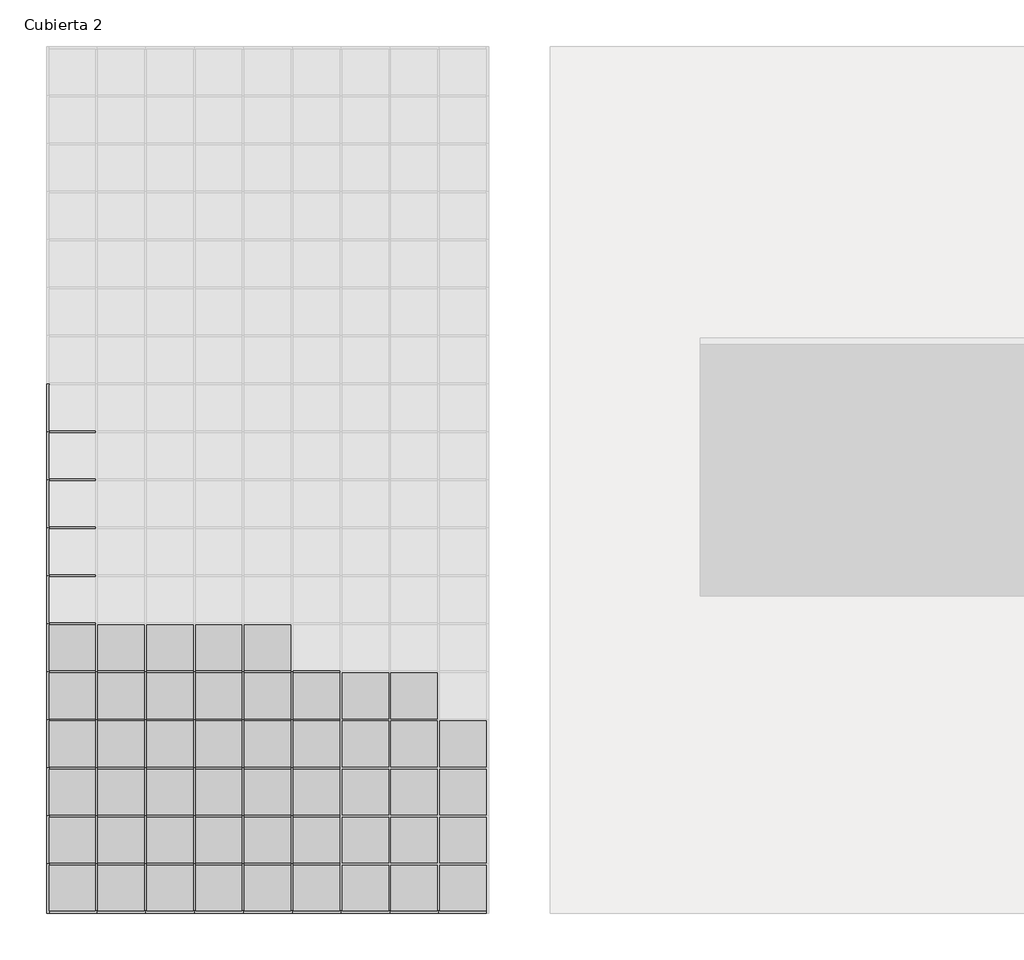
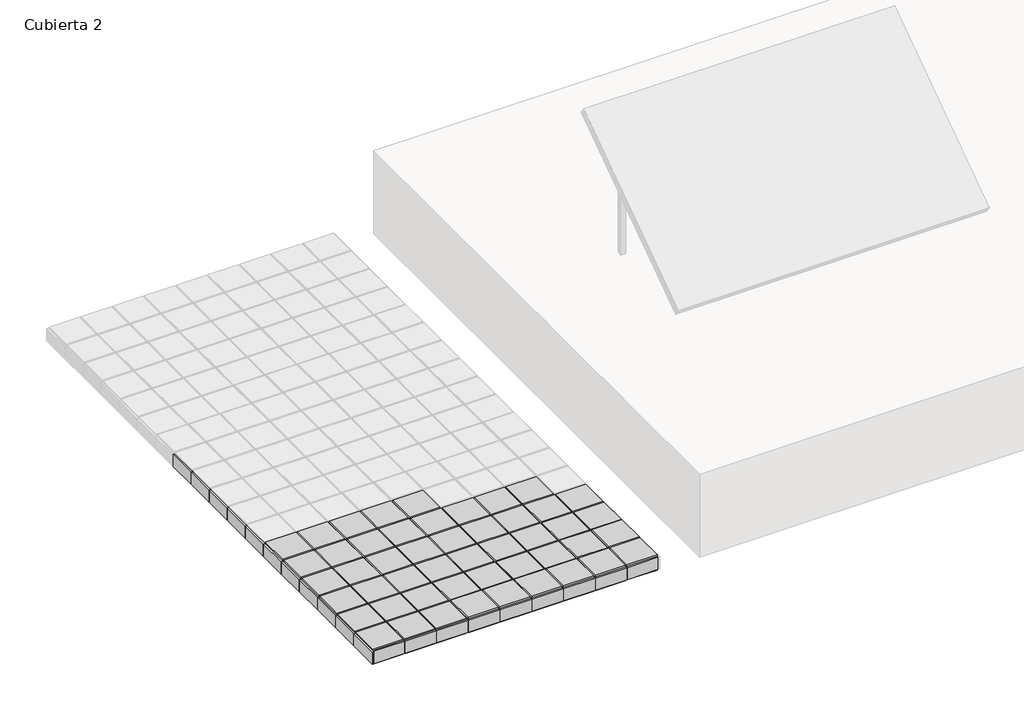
# One storey, part 1 of 4: 80 members, 49 plates.
"""IFC4 building model written with IfcOpenShell, lengths in millimetres."""

from ifc_helpers import new_model, si_unit, origin, place, context, project, spatial, transform, mapped, element, save
from components import montante_rectangular_ea949198, montante_rectangular_327b2392, montante_rectangular_18b8adfa, montante_rectangular_e7061a9b, montante_rectangular_c2f012c7, montante_rectangular_ca4572ea, montante_rectangular_b9ac4352, panel_de_sistema_3571c154

model = new_model("IFC4")

# Units and contexts
model_context = context("Model", 3, world=origin())
ifc_project = project(units=[si_unit("LENGTHUNIT", "METRE", prefix="MILLI")], contexts=[model_context])

# Site, building, storey
site = spatial("IfcSite", under=ifc_project)
building = spatial("IfcBuilding", under=site)
storey = spatial("IfcBuildingStorey", under=building, Name="Cubierta 2", Elevation=9000.0)

# Members
placement = place(None, origin())
montante_rectangular_shape = montante_rectangular_ea949198(model_context)
element("IfcMember", 1, ObjectType="Montante rectangular : Junta de paves", at=placement, inside=storey, context=model_context, shape_type="MappedRepresentation", body=[
    mapped(montante_rectangular_shape, transform((-6021.0601801, -7842.1113481, 8750.0), x_axis=(0.0, 1.0, 0.0), y_axis=(0.0, 0.0, -1.0), z_axis=(-1.0, 0.0, 0.0))),
])
element("IfcMember", 2, ObjectType="Montante rectangular : Junta de paves", at=placement, inside=storey, context=model_context, shape_type="MappedRepresentation", body=[
    mapped(montante_rectangular_shape, transform((-5822.1712912, -7842.1113481, 8750.0), x_axis=(0.0, 1.0, 0.0), y_axis=(0.0, 0.0, -1.0), z_axis=(-1.0, 0.0, 0.0))),
])
element("IfcMember", 3, ObjectType="Montante rectangular : Junta de paves", at=placement, inside=storey, context=model_context, shape_type="MappedRepresentation", body=[
    mapped(montante_rectangular_shape, transform((-5623.2824023, -7842.1113481, 8750.0), x_axis=(0.0, 1.0, 0.0), y_axis=(0.0, 0.0, -1.0), z_axis=(-1.0, 0.0, 0.0))),
])
element("IfcMember", 4, ObjectType="Montante rectangular : Junta de paves", at=placement, inside=storey, context=model_context, shape_type="MappedRepresentation", body=[
    mapped(montante_rectangular_shape, transform((-5424.3935134, -7842.1113481, 8750.0), x_axis=(0.0, 1.0, 0.0), y_axis=(0.0, 0.0, -1.0), z_axis=(-1.0, 0.0, 0.0))),
])
element("IfcMember", 5, ObjectType="Montante rectangular : Junta de paves", at=placement, inside=storey, context=model_context, shape_type="MappedRepresentation", body=[
    mapped(montante_rectangular_shape, transform((-5225.5046245, -7842.1113481, 8750.0), x_axis=(0.0, 1.0, 0.0), y_axis=(0.0, 0.0, -1.0), z_axis=(-1.0, 0.0, 0.0))),
])
element("IfcMember", 6, ObjectType="Montante rectangular : Junta de paves", at=placement, inside=storey, context=model_context, shape_type="MappedRepresentation", body=[
    mapped(montante_rectangular_shape, transform((-5026.6157356, -7842.1113481, 8750.0), x_axis=(0.0, 1.0, 0.0), y_axis=(0.0, 0.0, -1.0), z_axis=(-1.0, 0.0, 0.0))),
])
element("IfcMember", 7, ObjectType="Montante rectangular : Junta de paves", at=placement, inside=storey, context=model_context, shape_type="MappedRepresentation", body=[
    mapped(montante_rectangular_shape, transform((-6021.0601801, -7646.5557926, 8750.0), x_axis=(0.0, 1.0, 0.0), y_axis=(0.0, 0.0, -1.0), z_axis=(-1.0, 0.0, 0.0))),
])
element("IfcMember", 8, ObjectType="Montante rectangular : Junta de paves", at=placement, inside=storey, context=model_context, shape_type="MappedRepresentation", body=[
    mapped(montante_rectangular_shape, transform((-5822.1712912, -7646.5557926, 8750.0), x_axis=(0.0, 1.0, 0.0), y_axis=(0.0, 0.0, -1.0), z_axis=(-1.0, 0.0, 0.0))),
])
element("IfcMember", 9, ObjectType="Montante rectangular : Junta de paves", at=placement, inside=storey, context=model_context, shape_type="MappedRepresentation", body=[
    mapped(montante_rectangular_shape, transform((-5623.2824023, -7646.5557926, 8750.0), x_axis=(0.0, 1.0, 0.0), y_axis=(0.0, 0.0, -1.0), z_axis=(-1.0, 0.0, 0.0))),
])
element("IfcMember", 10, ObjectType="Montante rectangular : Junta de paves", at=placement, inside=storey, context=model_context, shape_type="MappedRepresentation", body=[
    mapped(montante_rectangular_shape, transform((-5424.3935134, -7646.5557926, 8750.0), x_axis=(0.0, 1.0, 0.0), y_axis=(0.0, 0.0, -1.0), z_axis=(-1.0, 0.0, 0.0))),
])
element("IfcMember", 11, ObjectType="Montante rectangular : Junta de paves", at=placement, inside=storey, context=model_context, shape_type="MappedRepresentation", body=[
    mapped(montante_rectangular_shape, transform((-5225.5046245, -7646.5557926, 8750.0), x_axis=(0.0, 1.0, 0.0), y_axis=(0.0, 0.0, -1.0), z_axis=(-1.0, 0.0, 0.0))),
])
element("IfcMember", 12, ObjectType="Montante rectangular : Junta de paves", at=placement, inside=storey, context=model_context, shape_type="MappedRepresentation", body=[
    mapped(montante_rectangular_shape, transform((-5026.6157356, -7646.5557926, 8750.0), x_axis=(0.0, 1.0, 0.0), y_axis=(0.0, 0.0, -1.0), z_axis=(-1.0, 0.0, 0.0))),
])
element("IfcMember", 13, ObjectType="Montante rectangular : Junta de paves", at=placement, inside=storey, context=model_context, shape_type="MappedRepresentation", body=[
    mapped(montante_rectangular_shape, transform((-6021.0601801, -7451.000237, 8750.0), x_axis=(0.0, 1.0, 0.0), y_axis=(0.0, 0.0, -1.0), z_axis=(-1.0, 0.0, 0.0))),
])
element("IfcMember", 14, ObjectType="Montante rectangular : Junta de paves", at=placement, inside=storey, context=model_context, shape_type="MappedRepresentation", body=[
    mapped(montante_rectangular_shape, transform((-5822.1712912, -7451.000237, 8750.0), x_axis=(0.0, 1.0, 0.0), y_axis=(0.0, 0.0, -1.0), z_axis=(-1.0, 0.0, 0.0))),
])
element("IfcMember", 15, ObjectType="Montante rectangular : Junta de paves", at=placement, inside=storey, context=model_context, shape_type="MappedRepresentation", body=[
    mapped(montante_rectangular_shape, transform((-5623.2824023, -7451.000237, 8750.0), x_axis=(0.0, 1.0, 0.0), y_axis=(0.0, 0.0, -1.0), z_axis=(-1.0, 0.0, 0.0))),
])
element("IfcMember", 16, ObjectType="Montante rectangular : Junta de paves", at=placement, inside=storey, context=model_context, shape_type="MappedRepresentation", body=[
    mapped(montante_rectangular_shape, transform((-5424.3935134, -7451.000237, 8750.0), x_axis=(0.0, 1.0, 0.0), y_axis=(0.0, 0.0, -1.0), z_axis=(-1.0, 0.0, 0.0))),
])
element("IfcMember", 17, ObjectType="Montante rectangular : Junta de paves", at=placement, inside=storey, context=model_context, shape_type="MappedRepresentation", body=[
    mapped(montante_rectangular_shape, transform((-5225.5046245, -7451.000237, 8750.0), x_axis=(0.0, 1.0, 0.0), y_axis=(0.0, 0.0, -1.0), z_axis=(-1.0, 0.0, 0.0))),
])
element("IfcMember", 18, ObjectType="Montante rectangular : Junta de paves", at=placement, inside=storey, context=model_context, shape_type="MappedRepresentation", body=[
    mapped(montante_rectangular_shape, transform((-5026.6157356, -7451.000237, 8750.0), x_axis=(0.0, 1.0, 0.0), y_axis=(0.0, 0.0, -1.0), z_axis=(-1.0, 0.0, 0.0))),
])
element("IfcMember", 19, ObjectType="Montante rectangular : Junta de paves", at=placement, inside=storey, context=model_context, shape_type="MappedRepresentation", body=[
    mapped(montante_rectangular_shape, transform((-6021.0601801, -7255.4446815, 8750.0), x_axis=(0.0, 1.0, 0.0), y_axis=(0.0, 0.0, -1.0), z_axis=(-1.0, 0.0, 0.0))),
])
element("IfcMember", 20, ObjectType="Montante rectangular : Junta de paves", at=placement, inside=storey, context=model_context, shape_type="MappedRepresentation", body=[
    mapped(montante_rectangular_shape, transform((-5822.1712912, -7255.4446815, 8750.0), x_axis=(0.0, 1.0, 0.0), y_axis=(0.0, 0.0, -1.0), z_axis=(-1.0, 0.0, 0.0))),
])
element("IfcMember", 21, ObjectType="Montante rectangular : Junta de paves", at=placement, inside=storey, context=model_context, shape_type="MappedRepresentation", body=[
    mapped(montante_rectangular_shape, transform((-5623.2824023, -7255.4446815, 8750.0), x_axis=(0.0, 1.0, 0.0), y_axis=(0.0, 0.0, -1.0), z_axis=(-1.0, 0.0, 0.0))),
])
element("IfcMember", 22, ObjectType="Montante rectangular : Junta de paves", at=placement, inside=storey, context=model_context, shape_type="MappedRepresentation", body=[
    mapped(montante_rectangular_shape, transform((-5424.3935134, -7255.4446815, 8750.0), x_axis=(0.0, 1.0, 0.0), y_axis=(0.0, 0.0, -1.0), z_axis=(-1.0, 0.0, 0.0))),
])
element("IfcMember", 23, ObjectType="Montante rectangular : Junta de paves", at=placement, inside=storey, context=model_context, shape_type="MappedRepresentation", body=[
    mapped(montante_rectangular_shape, transform((-5225.5046245, -7255.4446815, 8750.0), x_axis=(0.0, 1.0, 0.0), y_axis=(0.0, 0.0, -1.0), z_axis=(-1.0, 0.0, 0.0))),
])
element("IfcMember", 24, ObjectType="Montante rectangular : Junta de paves", at=placement, inside=storey, context=model_context, shape_type="MappedRepresentation", body=[
    mapped(montante_rectangular_shape, transform((-5026.6157356, -7255.4446815, 8750.0), x_axis=(0.0, 1.0, 0.0), y_axis=(0.0, 0.0, -1.0), z_axis=(-1.0, 0.0, 0.0))),
])
element("IfcMember", 25, ObjectType="Montante rectangular : Junta de paves", at=placement, inside=storey, context=model_context, shape_type="MappedRepresentation", body=[
    mapped(montante_rectangular_shape, transform((-6021.0601801, -7059.8891259, 8750.0), x_axis=(0.0, 1.0, 0.0), y_axis=(0.0, 0.0, -1.0), z_axis=(-1.0, 0.0, 0.0))),
])
element("IfcMember", 26, ObjectType="Montante rectangular : Junta de paves", at=placement, inside=storey, context=model_context, shape_type="MappedRepresentation", body=[
    mapped(montante_rectangular_shape, transform((-5822.1712912, -7059.8891259, 8750.0), x_axis=(0.0, 1.0, 0.0), y_axis=(0.0, 0.0, -1.0), z_axis=(-1.0, 0.0, 0.0))),
])
element("IfcMember", 27, ObjectType="Montante rectangular : Junta de paves", at=placement, inside=storey, context=model_context, shape_type="MappedRepresentation", body=[
    mapped(montante_rectangular_shape, transform((-5623.2824023, -7059.8891259, 8750.0), x_axis=(0.0, 1.0, 0.0), y_axis=(0.0, 0.0, -1.0), z_axis=(-1.0, 0.0, 0.0))),
])
element("IfcMember", 28, ObjectType="Montante rectangular : Junta de paves", at=placement, inside=storey, context=model_context, shape_type="MappedRepresentation", body=[
    mapped(montante_rectangular_shape, transform((-5424.3935134, -7059.8891259, 8750.0), x_axis=(0.0, 1.0, 0.0), y_axis=(0.0, 0.0, -1.0), z_axis=(-1.0, 0.0, 0.0))),
])
element("IfcMember", 29, ObjectType="Montante rectangular : Junta de paves", at=placement, inside=storey, context=model_context, shape_type="MappedRepresentation", body=[
    mapped(montante_rectangular_shape, transform((-5225.5046245, -7059.8891259, 8750.0), x_axis=(0.0, 1.0, 0.0), y_axis=(0.0, 0.0, -1.0), z_axis=(-1.0, 0.0, 0.0))),
])
element("IfcMember", 30, ObjectType="Montante rectangular : Junta de paves", at=placement, inside=storey, context=model_context, shape_type="MappedRepresentation", body=[
    mapped(montante_rectangular_shape, transform((-5026.6157356, -7059.8891259, 8750.0), x_axis=(0.0, 1.0, 0.0), y_axis=(0.0, 0.0, -1.0), z_axis=(-1.0, 0.0, 0.0))),
])
element("IfcMember", 31, ObjectType="Montante rectangular : Junta de paves", at=placement, inside=storey, context=model_context, shape_type="MappedRepresentation", body=[
    mapped(montante_rectangular_shape, transform((-6021.0601801, -6864.3335704, 8750.0), x_axis=(0.0, 1.0, 0.0), y_axis=(0.0, 0.0, -1.0), z_axis=(-1.0, 0.0, 0.0))),
])
element("IfcMember", 32, ObjectType="Montante rectangular : Junta de paves", at=placement, inside=storey, context=model_context, shape_type="MappedRepresentation", body=[
    mapped(montante_rectangular_shape, transform((-6021.0601801, -6668.7780148, 8750.0), x_axis=(0.0, 1.0, 0.0), y_axis=(0.0, 0.0, -1.0), z_axis=(-1.0, 0.0, 0.0))),
])
element("IfcMember", 33, ObjectType="Montante rectangular : Junta de paves", at=placement, inside=storey, context=model_context, shape_type="MappedRepresentation", body=[
    mapped(montante_rectangular_shape, transform((-6021.0601801, -6473.2224592, 8750.0), x_axis=(0.0, 1.0, 0.0), y_axis=(0.0, 0.0, -1.0), z_axis=(-1.0, 0.0, 0.0))),
])
element("IfcMember", 34, ObjectType="Montante rectangular : Junta de paves", at=placement, inside=storey, context=model_context, shape_type="MappedRepresentation", body=[
    mapped(montante_rectangular_shape, transform((-6021.0601801, -6277.6669037, 8750.0), x_axis=(0.0, 1.0, 0.0), y_axis=(0.0, 0.0, -1.0), z_axis=(-1.0, 0.0, 0.0))),
])
element("IfcMember", 35, ObjectType="Montante rectangular : Junta de paves", at=placement, inside=storey, context=model_context, shape_type="MappedRepresentation", body=[
    mapped(montante_rectangular_shape, transform((-6021.0601801, -6082.1113481, 8750.0), x_axis=(0.0, 1.0, 0.0), y_axis=(0.0, 0.0, -1.0), z_axis=(-1.0, 0.0, 0.0))),
])
montante_rectangular_2_shape = montante_rectangular_327b2392(model_context)
element("IfcMember", 36, ObjectType="Montante rectangular : Junta de paves", at=placement, inside=storey, context=model_context, shape_type="MappedRepresentation", body=[
    mapped(montante_rectangular_2_shape, transform((-5827.1712912, -7842.1113481, 8750.0), x_axis=(1.0, 0.0, 0.0), y_axis=(0.0, 0.0, -1.0), z_axis=(0.0, 1.0, 0.0))),
])
element("IfcMember", 37, ObjectType="Montante rectangular : Junta de paves", at=placement, inside=storey, context=model_context, shape_type="MappedRepresentation", body=[
    mapped(montante_rectangular_2_shape, transform((-5628.2824023, -7842.1113481, 8750.0), x_axis=(1.0, 0.0, 0.0), y_axis=(0.0, 0.0, -1.0), z_axis=(0.0, 1.0, 0.0))),
])
element("IfcMember", 38, ObjectType="Montante rectangular : Junta de paves", at=placement, inside=storey, context=model_context, shape_type="MappedRepresentation", body=[
    mapped(montante_rectangular_2_shape, transform((-5429.3935134, -7842.1113481, 8750.0), x_axis=(1.0, 0.0, 0.0), y_axis=(0.0, 0.0, -1.0), z_axis=(0.0, 1.0, 0.0))),
])
element("IfcMember", 39, ObjectType="Montante rectangular : Junta de paves", at=placement, inside=storey, context=model_context, shape_type="MappedRepresentation", body=[
    mapped(montante_rectangular_2_shape, transform((-5230.5046245, -7842.1113481, 8750.0), x_axis=(1.0, 0.0, 0.0), y_axis=(0.0, 0.0, -1.0), z_axis=(0.0, 1.0, 0.0))),
])
element("IfcMember", 40, ObjectType="Montante rectangular : Junta de paves", at=placement, inside=storey, context=model_context, shape_type="MappedRepresentation", body=[
    mapped(montante_rectangular_2_shape, transform((-5031.6157356, -7842.1113481, 8750.0), x_axis=(1.0, 0.0, 0.0), y_axis=(0.0, 0.0, -1.0), z_axis=(0.0, 1.0, 0.0))),
])
montante_rectangular_3_shape = montante_rectangular_18b8adfa(model_context)
element("IfcMember", 41, ObjectType="Montante rectangular : Junta de paves", at=placement, inside=storey, context=model_context, shape_type="MappedRepresentation", body=[
    mapped(montante_rectangular_3_shape, transform((-5827.1712912, -7646.5557926, 8750.0), x_axis=(1.0, 0.0, 0.0), y_axis=(0.0, 0.0, -1.0), z_axis=(0.0, 1.0, 0.0))),
])
element("IfcMember", 42, ObjectType="Montante rectangular : Junta de paves", at=placement, inside=storey, context=model_context, shape_type="MappedRepresentation", body=[
    mapped(montante_rectangular_3_shape, transform((-5628.2824023, -7646.5557926, 8750.0), x_axis=(1.0, 0.0, 0.0), y_axis=(0.0, 0.0, -1.0), z_axis=(0.0, 1.0, 0.0))),
])
element("IfcMember", 43, ObjectType="Montante rectangular : Junta de paves", at=placement, inside=storey, context=model_context, shape_type="MappedRepresentation", body=[
    mapped(montante_rectangular_3_shape, transform((-5429.3935134, -7646.5557926, 8750.0), x_axis=(1.0, 0.0, 0.0), y_axis=(0.0, 0.0, -1.0), z_axis=(0.0, 1.0, 0.0))),
])
element("IfcMember", 44, ObjectType="Montante rectangular : Junta de paves", at=placement, inside=storey, context=model_context, shape_type="MappedRepresentation", body=[
    mapped(montante_rectangular_3_shape, transform((-5230.5046245, -7646.5557926, 8750.0), x_axis=(1.0, 0.0, 0.0), y_axis=(0.0, 0.0, -1.0), z_axis=(0.0, 1.0, 0.0))),
])
element("IfcMember", 45, ObjectType="Montante rectangular : Junta de paves", at=placement, inside=storey, context=model_context, shape_type="MappedRepresentation", body=[
    mapped(montante_rectangular_3_shape, transform((-5031.6157356, -7646.5557926, 8750.0), x_axis=(1.0, 0.0, 0.0), y_axis=(0.0, 0.0, -1.0), z_axis=(0.0, 1.0, 0.0))),
])
element("IfcMember", 46, ObjectType="Montante rectangular : Junta de paves", at=placement, inside=storey, context=model_context, shape_type="MappedRepresentation", body=[
    mapped(montante_rectangular_3_shape, transform((-5827.1712912, -7451.000237, 8750.0), x_axis=(1.0, 0.0, 0.0), y_axis=(0.0, 0.0, -1.0), z_axis=(0.0, 1.0, 0.0))),
])
element("IfcMember", 47, ObjectType="Montante rectangular : Junta de paves", at=placement, inside=storey, context=model_context, shape_type="MappedRepresentation", body=[
    mapped(montante_rectangular_3_shape, transform((-5628.2824023, -7451.000237, 8750.0), x_axis=(1.0, 0.0, 0.0), y_axis=(0.0, 0.0, -1.0), z_axis=(0.0, 1.0, 0.0))),
])
element("IfcMember", 48, ObjectType="Montante rectangular : Junta de paves", at=placement, inside=storey, context=model_context, shape_type="MappedRepresentation", body=[
    mapped(montante_rectangular_3_shape, transform((-5429.3935134, -7451.000237, 8750.0), x_axis=(1.0, 0.0, 0.0), y_axis=(0.0, 0.0, -1.0), z_axis=(0.0, 1.0, 0.0))),
])
element("IfcMember", 49, ObjectType="Montante rectangular : Junta de paves", at=placement, inside=storey, context=model_context, shape_type="MappedRepresentation", body=[
    mapped(montante_rectangular_3_shape, transform((-5230.5046245, -7451.000237, 8750.0), x_axis=(1.0, 0.0, 0.0), y_axis=(0.0, 0.0, -1.0), z_axis=(0.0, 1.0, 0.0))),
])
element("IfcMember", 50, ObjectType="Montante rectangular : Junta de paves", at=placement, inside=storey, context=model_context, shape_type="MappedRepresentation", body=[
    mapped(montante_rectangular_3_shape, transform((-5031.6157356, -7451.000237, 8750.0), x_axis=(1.0, 0.0, 0.0), y_axis=(0.0, 0.0, -1.0), z_axis=(0.0, 1.0, 0.0))),
])
element("IfcMember", 51, ObjectType="Montante rectangular : Junta de paves", at=placement, inside=storey, context=model_context, shape_type="MappedRepresentation", body=[
    mapped(montante_rectangular_3_shape, transform((-5827.1712912, -7255.4446815, 8750.0), x_axis=(1.0, 0.0, 0.0), y_axis=(0.0, 0.0, -1.0), z_axis=(0.0, 1.0, 0.0))),
])
element("IfcMember", 52, ObjectType="Montante rectangular : Junta de paves", at=placement, inside=storey, context=model_context, shape_type="MappedRepresentation", body=[
    mapped(montante_rectangular_3_shape, transform((-5628.2824023, -7255.4446815, 8750.0), x_axis=(1.0, 0.0, 0.0), y_axis=(0.0, 0.0, -1.0), z_axis=(0.0, 1.0, 0.0))),
])
element("IfcMember", 53, ObjectType="Montante rectangular : Junta de paves", at=placement, inside=storey, context=model_context, shape_type="MappedRepresentation", body=[
    mapped(montante_rectangular_3_shape, transform((-5429.3935134, -7255.4446815, 8750.0), x_axis=(1.0, 0.0, 0.0), y_axis=(0.0, 0.0, -1.0), z_axis=(0.0, 1.0, 0.0))),
])
element("IfcMember", 54, ObjectType="Montante rectangular : Junta de paves", at=placement, inside=storey, context=model_context, shape_type="MappedRepresentation", body=[
    mapped(montante_rectangular_3_shape, transform((-5230.5046245, -7255.4446815, 8750.0), x_axis=(1.0, 0.0, 0.0), y_axis=(0.0, 0.0, -1.0), z_axis=(0.0, 1.0, 0.0))),
])
element("IfcMember", 55, ObjectType="Montante rectangular : Junta de paves", at=placement, inside=storey, context=model_context, shape_type="MappedRepresentation", body=[
    mapped(montante_rectangular_3_shape, transform((-5031.6157356, -7255.4446815, 8750.0), x_axis=(1.0, 0.0, 0.0), y_axis=(0.0, 0.0, -1.0), z_axis=(0.0, 1.0, 0.0))),
])
element("IfcMember", 56, ObjectType="Montante rectangular : Junta de paves", at=placement, inside=storey, context=model_context, shape_type="MappedRepresentation", body=[
    mapped(montante_rectangular_3_shape, transform((-5827.1712912, -7059.8891259, 8750.0), x_axis=(1.0, 0.0, 0.0), y_axis=(0.0, 0.0, -1.0), z_axis=(0.0, 1.0, 0.0))),
])
element("IfcMember", 57, ObjectType="Montante rectangular : Junta de paves", at=placement, inside=storey, context=model_context, shape_type="MappedRepresentation", body=[
    mapped(montante_rectangular_3_shape, transform((-5628.2824023, -7059.8891259, 8750.0), x_axis=(1.0, 0.0, 0.0), y_axis=(0.0, 0.0, -1.0), z_axis=(0.0, 1.0, 0.0))),
])
element("IfcMember", 58, ObjectType="Montante rectangular : Junta de paves", at=placement, inside=storey, context=model_context, shape_type="MappedRepresentation", body=[
    mapped(montante_rectangular_3_shape, transform((-5429.3935134, -7059.8891259, 8750.0), x_axis=(1.0, 0.0, 0.0), y_axis=(0.0, 0.0, -1.0), z_axis=(0.0, 1.0, 0.0))),
])
element("IfcMember", 59, ObjectType="Montante rectangular : Junta de paves", at=placement, inside=storey, context=model_context, shape_type="MappedRepresentation", body=[
    mapped(montante_rectangular_3_shape, transform((-5230.5046245, -7059.8891259, 8750.0), x_axis=(1.0, 0.0, 0.0), y_axis=(0.0, 0.0, -1.0), z_axis=(0.0, 1.0, 0.0))),
])
element("IfcMember", 60, ObjectType="Montante rectangular : Junta de paves", at=placement, inside=storey, context=model_context, shape_type="MappedRepresentation", body=[
    mapped(montante_rectangular_3_shape, transform((-5031.6157356, -7059.8891259, 8750.0), x_axis=(1.0, 0.0, 0.0), y_axis=(0.0, 0.0, -1.0), z_axis=(0.0, 1.0, 0.0))),
])
montante_rectangular_4_shape = montante_rectangular_e7061a9b(model_context)
element("IfcMember", 61, ObjectType="Montante rectangular : Junta de paves", at=placement, inside=storey, context=model_context, shape_type="MappedRepresentation", body=[
    mapped(montante_rectangular_4_shape, transform((-4241.0601801, -8042.6669037, 8750.0), x_axis=(0.0, -1.0, 0.0), y_axis=(0.0, 0.0, -1.0), z_axis=(1.0, 0.0, 0.0))),
])
montante_rectangular_5_shape = montante_rectangular_c2f012c7(model_context)
element("IfcMember", 62, ObjectType="Montante rectangular : Junta de paves", at=placement, inside=storey, context=model_context, shape_type="MappedRepresentation", body=[
    mapped(montante_rectangular_5_shape, transform((-6031.0601801, -8042.6669037, 8750.0), x_axis=(-1.0, 0.0, 0.0), y_axis=(0.0, 0.0, -1.0), z_axis=(0.0, -1.0, 0.0))),
])
element("IfcMember", 63, ObjectType="Montante rectangular : Junta de paves", at=placement, inside=storey, context=model_context, shape_type="MappedRepresentation", body=[
    mapped(montante_rectangular_4_shape, transform((-5827.1712912, -8042.6669037, 8750.0), x_axis=(0.0, -1.0, 0.0), y_axis=(0.0, 0.0, -1.0), z_axis=(1.0, 0.0, 0.0))),
])
montante_rectangular_6_shape = montante_rectangular_ca4572ea(model_context)
element("IfcMember", 64, ObjectType="Montante rectangular : Junta de paves", at=placement, inside=storey, context=model_context, shape_type="MappedRepresentation", body=[
    mapped(montante_rectangular_6_shape, transform((-5628.2824023, -8042.6669037, 8750.0), x_axis=(0.0, -1.0, 0.0), y_axis=(0.0, 0.0, -1.0), z_axis=(1.0, 0.0, 0.0))),
])
element("IfcMember", 65, ObjectType="Montante rectangular : Junta de paves", at=placement, inside=storey, context=model_context, shape_type="MappedRepresentation", body=[
    mapped(montante_rectangular_6_shape, transform((-5429.3935134, -8042.6669037, 8750.0), x_axis=(0.0, -1.0, 0.0), y_axis=(0.0, 0.0, -1.0), z_axis=(1.0, 0.0, 0.0))),
])
element("IfcMember", 66, ObjectType="Montante rectangular : Junta de paves", at=placement, inside=storey, context=model_context, shape_type="MappedRepresentation", body=[
    mapped(montante_rectangular_6_shape, transform((-5230.5046245, -8042.6669037, 8750.0), x_axis=(0.0, -1.0, 0.0), y_axis=(0.0, 0.0, -1.0), z_axis=(1.0, 0.0, 0.0))),
])
element("IfcMember", 67, ObjectType="Montante rectangular : Junta de paves", at=placement, inside=storey, context=model_context, shape_type="MappedRepresentation", body=[
    mapped(montante_rectangular_6_shape, transform((-5031.6157356, -8042.6669037, 8750.0), x_axis=(0.0, -1.0, 0.0), y_axis=(0.0, 0.0, -1.0), z_axis=(1.0, 0.0, 0.0))),
])
element("IfcMember", 68, ObjectType="Montante rectangular : Junta de paves", at=placement, inside=storey, context=model_context, shape_type="MappedRepresentation", body=[
    mapped(montante_rectangular_6_shape, transform((-4832.7268467, -8042.6669037, 8750.0), x_axis=(0.0, -1.0, 0.0), y_axis=(0.0, 0.0, -1.0), z_axis=(1.0, 0.0, 0.0))),
])
element("IfcMember", 69, ObjectType="Montante rectangular : Junta de paves", at=placement, inside=storey, context=model_context, shape_type="MappedRepresentation", body=[
    mapped(montante_rectangular_6_shape, transform((-4633.8379579, -8042.6669037, 8750.0), x_axis=(0.0, -1.0, 0.0), y_axis=(0.0, 0.0, -1.0), z_axis=(1.0, 0.0, 0.0))),
])
element("IfcMember", 70, ObjectType="Montante rectangular : Junta de paves", at=placement, inside=storey, context=model_context, shape_type="MappedRepresentation", body=[
    mapped(montante_rectangular_6_shape, transform((-4434.949069, -8042.6669037, 8750.0), x_axis=(0.0, -1.0, 0.0), y_axis=(0.0, 0.0, -1.0), z_axis=(1.0, 0.0, 0.0))),
])
montante_rectangular_7_shape = montante_rectangular_b9ac4352(model_context)
element("IfcMember", 71, ObjectType="Montante rectangular : Junta de paves", at=placement, inside=storey, context=model_context, shape_type="MappedRepresentation", body=[
    mapped(montante_rectangular_7_shape, transform((-6031.0601801, -7842.1113481, 8750.0), x_axis=(-1.0, 0.0, 0.0), y_axis=(0.0, 0.0, -1.0), z_axis=(0.0, -1.0, 0.0))),
])
element("IfcMember", 72, ObjectType="Montante rectangular : Junta de paves", at=placement, inside=storey, context=model_context, shape_type="MappedRepresentation", body=[
    mapped(montante_rectangular_7_shape, transform((-6031.0601801, -7646.5557926, 8750.0), x_axis=(-1.0, 0.0, 0.0), y_axis=(0.0, 0.0, -1.0), z_axis=(0.0, -1.0, 0.0))),
])
element("IfcMember", 73, ObjectType="Montante rectangular : Junta de paves", at=placement, inside=storey, context=model_context, shape_type="MappedRepresentation", body=[
    mapped(montante_rectangular_7_shape, transform((-6031.0601801, -7451.000237, 8750.0), x_axis=(-1.0, 0.0, 0.0), y_axis=(0.0, 0.0, -1.0), z_axis=(0.0, -1.0, 0.0))),
])
element("IfcMember", 74, ObjectType="Montante rectangular : Junta de paves", at=placement, inside=storey, context=model_context, shape_type="MappedRepresentation", body=[
    mapped(montante_rectangular_7_shape, transform((-6031.0601801, -7255.4446815, 8750.0), x_axis=(-1.0, 0.0, 0.0), y_axis=(0.0, 0.0, -1.0), z_axis=(0.0, -1.0, 0.0))),
])
element("IfcMember", 75, ObjectType="Montante rectangular : Junta de paves", at=placement, inside=storey, context=model_context, shape_type="MappedRepresentation", body=[
    mapped(montante_rectangular_7_shape, transform((-6031.0601801, -7059.8891259, 8750.0), x_axis=(-1.0, 0.0, 0.0), y_axis=(0.0, 0.0, -1.0), z_axis=(0.0, -1.0, 0.0))),
])
element("IfcMember", 76, ObjectType="Montante rectangular : Junta de paves", at=placement, inside=storey, context=model_context, shape_type="MappedRepresentation", body=[
    mapped(montante_rectangular_7_shape, transform((-6031.0601801, -6864.3335704, 8750.0), x_axis=(-1.0, 0.0, 0.0), y_axis=(0.0, 0.0, -1.0), z_axis=(0.0, -1.0, 0.0))),
])
element("IfcMember", 77, ObjectType="Montante rectangular : Junta de paves", at=placement, inside=storey, context=model_context, shape_type="MappedRepresentation", body=[
    mapped(montante_rectangular_7_shape, transform((-6031.0601801, -6668.7780148, 8750.0), x_axis=(-1.0, 0.0, 0.0), y_axis=(0.0, 0.0, -1.0), z_axis=(0.0, -1.0, 0.0))),
])
element("IfcMember", 78, ObjectType="Montante rectangular : Junta de paves", at=placement, inside=storey, context=model_context, shape_type="MappedRepresentation", body=[
    mapped(montante_rectangular_7_shape, transform((-6031.0601801, -6473.2224592, 8750.0), x_axis=(-1.0, 0.0, 0.0), y_axis=(0.0, 0.0, -1.0), z_axis=(0.0, -1.0, 0.0))),
])
element("IfcMember", 79, ObjectType="Montante rectangular : Junta de paves", at=placement, inside=storey, context=model_context, shape_type="MappedRepresentation", body=[
    mapped(montante_rectangular_7_shape, transform((-6031.0601801, -6277.6669037, 8750.0), x_axis=(-1.0, 0.0, 0.0), y_axis=(0.0, 0.0, -1.0), z_axis=(0.0, -1.0, 0.0))),
])
element("IfcMember", 80, ObjectType="Montante rectangular : Junta de paves", at=placement, inside=storey, context=model_context, shape_type="MappedRepresentation", body=[
    mapped(montante_rectangular_7_shape, transform((-6031.0601801, -6082.1113481, 8750.0), x_axis=(-1.0, 0.0, 0.0), y_axis=(0.0, 0.0, -1.0), z_axis=(0.0, -1.0, 0.0))),
])

# Plates
panel_de_sistema_shape = panel_de_sistema_3571c154(model_context)
element("IfcPlate", 81, ObjectType="Panel de sistema : PAVES", at=placement, inside=storey, context=model_context, shape_type="MappedRepresentation", body=[
    mapped(panel_de_sistema_shape, transform((-5926.6157356, -8032.6669037, 8750.0), x_axis=(1.0, 0.0, 0.0), y_axis=(0.0, 0.0, -1.0), z_axis=(0.0, 1.0, 0.0))),
])
element("IfcPlate", 82, ObjectType="Panel de sistema : PAVES", at=placement, inside=storey, context=model_context, shape_type="MappedRepresentation", body=[
    mapped(panel_de_sistema_shape, transform((-5727.7268467, -8032.6669037, 8750.0), x_axis=(1.0, 0.0, 0.0), y_axis=(0.0, 0.0, -1.0), z_axis=(0.0, 1.0, 0.0))),
])
element("IfcPlate", 83, ObjectType="Panel de sistema : PAVES", at=placement, inside=storey, context=model_context, shape_type="MappedRepresentation", body=[
    mapped(panel_de_sistema_shape, transform((-5528.8379579, -8032.6669037, 8750.0), x_axis=(1.0, 0.0, 0.0), y_axis=(0.0, 0.0, -1.0), z_axis=(0.0, 1.0, 0.0))),
])
element("IfcPlate", 84, ObjectType="Panel de sistema : PAVES", at=placement, inside=storey, context=model_context, shape_type="MappedRepresentation", body=[
    mapped(panel_de_sistema_shape, transform((-5329.949069, -8032.6669037, 8750.0), x_axis=(1.0, 0.0, 0.0), y_axis=(0.0, 0.0, -1.0), z_axis=(0.0, 1.0, 0.0))),
])
element("IfcPlate", 85, ObjectType="Panel de sistema : PAVES", at=placement, inside=storey, context=model_context, shape_type="MappedRepresentation", body=[
    mapped(panel_de_sistema_shape, transform((-5131.0601801, -8032.6669037, 8750.0), x_axis=(1.0, 0.0, 0.0), y_axis=(0.0, 0.0, -1.0), z_axis=(0.0, 1.0, 0.0))),
])
element("IfcPlate", 86, ObjectType="Panel de sistema : PAVES", at=placement, inside=storey, context=model_context, shape_type="MappedRepresentation", body=[
    mapped(panel_de_sistema_shape, transform((-4932.1712912, -8032.6669037, 8750.0), x_axis=(1.0, 0.0, 0.0), y_axis=(0.0, 0.0, -1.0), z_axis=(0.0, 1.0, 0.0))),
])
element("IfcPlate", 87, ObjectType="Panel de sistema : PAVES", at=placement, inside=storey, context=model_context, shape_type="MappedRepresentation", body=[
    mapped(panel_de_sistema_shape, transform((-4733.2824023, -8032.6669037, 8750.0), x_axis=(1.0, 0.0, 0.0), y_axis=(0.0, 0.0, -1.0), z_axis=(0.0, 1.0, 0.0))),
])
element("IfcPlate", 88, ObjectType="Panel de sistema : PAVES", at=placement, inside=storey, context=model_context, shape_type="MappedRepresentation", body=[
    mapped(panel_de_sistema_shape, transform((-4534.3935134, -8032.6669037, 8750.0), x_axis=(1.0, 0.0, 0.0), y_axis=(0.0, 0.0, -1.0), z_axis=(0.0, 1.0, 0.0))),
])
element("IfcPlate", 89, ObjectType="Panel de sistema : PAVES", at=placement, inside=storey, context=model_context, shape_type="MappedRepresentation", body=[
    mapped(panel_de_sistema_shape, transform((-4335.5046245, -8032.6669037, 8750.0), x_axis=(1.0, 0.0, 0.0), y_axis=(0.0, 0.0, -1.0), z_axis=(0.0, 1.0, 0.0))),
])
element("IfcPlate", 90, ObjectType="Panel de sistema : PAVES", at=placement, inside=storey, context=model_context, shape_type="MappedRepresentation", body=[
    mapped(panel_de_sistema_shape, transform((-5926.6157356, -7837.1113481, 8750.0), x_axis=(1.0, 0.0, 0.0), y_axis=(0.0, 0.0, -1.0), z_axis=(0.0, 1.0, 0.0))),
])
element("IfcPlate", 91, ObjectType="Panel de sistema : PAVES", at=placement, inside=storey, context=model_context, shape_type="MappedRepresentation", body=[
    mapped(panel_de_sistema_shape, transform((-5727.7268467, -7837.1113481, 8750.0), x_axis=(1.0, 0.0, 0.0), y_axis=(0.0, 0.0, -1.0), z_axis=(0.0, 1.0, 0.0))),
])
element("IfcPlate", 92, ObjectType="Panel de sistema : PAVES", at=placement, inside=storey, context=model_context, shape_type="MappedRepresentation", body=[
    mapped(panel_de_sistema_shape, transform((-5528.8379579, -7837.1113481, 8750.0), x_axis=(1.0, 0.0, 0.0), y_axis=(0.0, 0.0, -1.0), z_axis=(0.0, 1.0, 0.0))),
])
element("IfcPlate", 93, ObjectType="Panel de sistema : PAVES", at=placement, inside=storey, context=model_context, shape_type="MappedRepresentation", body=[
    mapped(panel_de_sistema_shape, transform((-5329.949069, -7837.1113481, 8750.0), x_axis=(1.0, 0.0, 0.0), y_axis=(0.0, 0.0, -1.0), z_axis=(0.0, 1.0, 0.0))),
])
element("IfcPlate", 94, ObjectType="Panel de sistema : PAVES", at=placement, inside=storey, context=model_context, shape_type="MappedRepresentation", body=[
    mapped(panel_de_sistema_shape, transform((-5131.0601801, -7837.1113481, 8750.0), x_axis=(1.0, 0.0, 0.0), y_axis=(0.0, 0.0, -1.0), z_axis=(0.0, 1.0, 0.0))),
])
element("IfcPlate", 95, ObjectType="Panel de sistema : PAVES", at=placement, inside=storey, context=model_context, shape_type="MappedRepresentation", body=[
    mapped(panel_de_sistema_shape, transform((-4932.1712912, -7837.1113481, 8750.0), x_axis=(1.0, 0.0, 0.0), y_axis=(0.0, 0.0, -1.0), z_axis=(0.0, 1.0, 0.0))),
])
element("IfcPlate", 96, ObjectType="Panel de sistema : PAVES", at=placement, inside=storey, context=model_context, shape_type="MappedRepresentation", body=[
    mapped(panel_de_sistema_shape, transform((-4733.2824023, -7837.1113481, 8750.0), x_axis=(1.0, 0.0, 0.0), y_axis=(0.0, 0.0, -1.0), z_axis=(0.0, 1.0, 0.0))),
])
element("IfcPlate", 97, ObjectType="Panel de sistema : PAVES", at=placement, inside=storey, context=model_context, shape_type="MappedRepresentation", body=[
    mapped(panel_de_sistema_shape, transform((-4534.3935134, -7837.1113481, 8750.0), x_axis=(1.0, 0.0, 0.0), y_axis=(0.0, 0.0, -1.0), z_axis=(0.0, 1.0, 0.0))),
])
element("IfcPlate", 98, ObjectType="Panel de sistema : PAVES", at=placement, inside=storey, context=model_context, shape_type="MappedRepresentation", body=[
    mapped(panel_de_sistema_shape, transform((-4335.5046245, -7837.1113481, 8750.0), x_axis=(1.0, 0.0, 0.0), y_axis=(0.0, 0.0, -1.0), z_axis=(0.0, 1.0, 0.0))),
])
element("IfcPlate", 99, ObjectType="Panel de sistema : PAVES", at=placement, inside=storey, context=model_context, shape_type="MappedRepresentation", body=[
    mapped(panel_de_sistema_shape, transform((-5926.6157356, -7641.5557926, 8750.0), x_axis=(1.0, 0.0, 0.0), y_axis=(0.0, 0.0, -1.0), z_axis=(0.0, 1.0, 0.0))),
])
element("IfcPlate", 100, ObjectType="Panel de sistema : PAVES", at=placement, inside=storey, context=model_context, shape_type="MappedRepresentation", body=[
    mapped(panel_de_sistema_shape, transform((-5727.7268467, -7641.5557926, 8750.0), x_axis=(1.0, 0.0, 0.0), y_axis=(0.0, 0.0, -1.0), z_axis=(0.0, 1.0, 0.0))),
])
element("IfcPlate", 101, ObjectType="Panel de sistema : PAVES", at=placement, inside=storey, context=model_context, shape_type="MappedRepresentation", body=[
    mapped(panel_de_sistema_shape, transform((-5528.8379579, -7641.5557926, 8750.0), x_axis=(1.0, 0.0, 0.0), y_axis=(0.0, 0.0, -1.0), z_axis=(0.0, 1.0, 0.0))),
])
element("IfcPlate", 102, ObjectType="Panel de sistema : PAVES", at=placement, inside=storey, context=model_context, shape_type="MappedRepresentation", body=[
    mapped(panel_de_sistema_shape, transform((-5329.949069, -7641.5557926, 8750.0), x_axis=(1.0, 0.0, 0.0), y_axis=(0.0, 0.0, -1.0), z_axis=(0.0, 1.0, 0.0))),
])
element("IfcPlate", 103, ObjectType="Panel de sistema : PAVES", at=placement, inside=storey, context=model_context, shape_type="MappedRepresentation", body=[
    mapped(panel_de_sistema_shape, transform((-5131.0601801, -7641.5557926, 8750.0), x_axis=(1.0, 0.0, 0.0), y_axis=(0.0, 0.0, -1.0), z_axis=(0.0, 1.0, 0.0))),
])
element("IfcPlate", 104, ObjectType="Panel de sistema : PAVES", at=placement, inside=storey, context=model_context, shape_type="MappedRepresentation", body=[
    mapped(panel_de_sistema_shape, transform((-4932.1712912, -7641.5557926, 8750.0), x_axis=(1.0, 0.0, 0.0), y_axis=(0.0, 0.0, -1.0), z_axis=(0.0, 1.0, 0.0))),
])
element("IfcPlate", 105, ObjectType="Panel de sistema : PAVES", at=placement, inside=storey, context=model_context, shape_type="MappedRepresentation", body=[
    mapped(panel_de_sistema_shape, transform((-4733.2824023, -7641.5557926, 8750.0), x_axis=(1.0, 0.0, 0.0), y_axis=(0.0, 0.0, -1.0), z_axis=(0.0, 1.0, 0.0))),
])
element("IfcPlate", 106, ObjectType="Panel de sistema : PAVES", at=placement, inside=storey, context=model_context, shape_type="MappedRepresentation", body=[
    mapped(panel_de_sistema_shape, transform((-4534.3935134, -7641.5557926, 8750.0), x_axis=(1.0, 0.0, 0.0), y_axis=(0.0, 0.0, -1.0), z_axis=(0.0, 1.0, 0.0))),
])
element("IfcPlate", 107, ObjectType="Panel de sistema : PAVES", at=placement, inside=storey, context=model_context, shape_type="MappedRepresentation", body=[
    mapped(panel_de_sistema_shape, transform((-4335.5046245, -7641.5557926, 8750.0), x_axis=(1.0, 0.0, 0.0), y_axis=(0.0, 0.0, -1.0), z_axis=(0.0, 1.0, 0.0))),
])
element("IfcPlate", 108, ObjectType="Panel de sistema : PAVES", at=placement, inside=storey, context=model_context, shape_type="MappedRepresentation", body=[
    mapped(panel_de_sistema_shape, transform((-5926.6157356, -7446.000237, 8750.0), x_axis=(1.0, 0.0, 0.0), y_axis=(0.0, 0.0, -1.0), z_axis=(0.0, 1.0, 0.0))),
])
element("IfcPlate", 109, ObjectType="Panel de sistema : PAVES", at=placement, inside=storey, context=model_context, shape_type="MappedRepresentation", body=[
    mapped(panel_de_sistema_shape, transform((-5727.7268467, -7446.000237, 8750.0), x_axis=(1.0, 0.0, 0.0), y_axis=(0.0, 0.0, -1.0), z_axis=(0.0, 1.0, 0.0))),
])
element("IfcPlate", 110, ObjectType="Panel de sistema : PAVES", at=placement, inside=storey, context=model_context, shape_type="MappedRepresentation", body=[
    mapped(panel_de_sistema_shape, transform((-5528.8379579, -7446.000237, 8750.0), x_axis=(1.0, 0.0, 0.0), y_axis=(0.0, 0.0, -1.0), z_axis=(0.0, 1.0, 0.0))),
])
element("IfcPlate", 111, ObjectType="Panel de sistema : PAVES", at=placement, inside=storey, context=model_context, shape_type="MappedRepresentation", body=[
    mapped(panel_de_sistema_shape, transform((-5329.949069, -7446.000237, 8750.0), x_axis=(1.0, 0.0, 0.0), y_axis=(0.0, 0.0, -1.0), z_axis=(0.0, 1.0, 0.0))),
])
element("IfcPlate", 112, ObjectType="Panel de sistema : PAVES", at=placement, inside=storey, context=model_context, shape_type="MappedRepresentation", body=[
    mapped(panel_de_sistema_shape, transform((-5131.0601801, -7446.000237, 8750.0), x_axis=(1.0, 0.0, 0.0), y_axis=(0.0, 0.0, -1.0), z_axis=(0.0, 1.0, 0.0))),
])
element("IfcPlate", 113, ObjectType="Panel de sistema : PAVES", at=placement, inside=storey, context=model_context, shape_type="MappedRepresentation", body=[
    mapped(panel_de_sistema_shape, transform((-4932.1712912, -7446.000237, 8750.0), x_axis=(1.0, 0.0, 0.0), y_axis=(0.0, 0.0, -1.0), z_axis=(0.0, 1.0, 0.0))),
])
element("IfcPlate", 114, ObjectType="Panel de sistema : PAVES", at=placement, inside=storey, context=model_context, shape_type="MappedRepresentation", body=[
    mapped(panel_de_sistema_shape, transform((-4733.2824023, -7446.000237, 8750.0), x_axis=(1.0, 0.0, 0.0), y_axis=(0.0, 0.0, -1.0), z_axis=(0.0, 1.0, 0.0))),
])
element("IfcPlate", 115, ObjectType="Panel de sistema : PAVES", at=placement, inside=storey, context=model_context, shape_type="MappedRepresentation", body=[
    mapped(panel_de_sistema_shape, transform((-4534.3935134, -7446.000237, 8750.0), x_axis=(1.0, 0.0, 0.0), y_axis=(0.0, 0.0, -1.0), z_axis=(0.0, 1.0, 0.0))),
])
element("IfcPlate", 116, ObjectType="Panel de sistema : PAVES", at=placement, inside=storey, context=model_context, shape_type="MappedRepresentation", body=[
    mapped(panel_de_sistema_shape, transform((-4335.5046245, -7446.000237, 8750.0), x_axis=(1.0, 0.0, 0.0), y_axis=(0.0, 0.0, -1.0), z_axis=(0.0, 1.0, 0.0))),
])
element("IfcPlate", 117, ObjectType="Panel de sistema : PAVES", at=placement, inside=storey, context=model_context, shape_type="MappedRepresentation", body=[
    mapped(panel_de_sistema_shape, transform((-5926.6157356, -7250.4446815, 8750.0), x_axis=(1.0, 0.0, 0.0), y_axis=(0.0, 0.0, -1.0), z_axis=(0.0, 1.0, 0.0))),
])
element("IfcPlate", 118, ObjectType="Panel de sistema : PAVES", at=placement, inside=storey, context=model_context, shape_type="MappedRepresentation", body=[
    mapped(panel_de_sistema_shape, transform((-5727.7268467, -7250.4446815, 8750.0), x_axis=(1.0, 0.0, 0.0), y_axis=(0.0, 0.0, -1.0), z_axis=(0.0, 1.0, 0.0))),
])
element("IfcPlate", 119, ObjectType="Panel de sistema : PAVES", at=placement, inside=storey, context=model_context, shape_type="MappedRepresentation", body=[
    mapped(panel_de_sistema_shape, transform((-5528.8379579, -7250.4446815, 8750.0), x_axis=(1.0, 0.0, 0.0), y_axis=(0.0, 0.0, -1.0), z_axis=(0.0, 1.0, 0.0))),
])
element("IfcPlate", 120, ObjectType="Panel de sistema : PAVES", at=placement, inside=storey, context=model_context, shape_type="MappedRepresentation", body=[
    mapped(panel_de_sistema_shape, transform((-5329.949069, -7250.4446815, 8750.0), x_axis=(1.0, 0.0, 0.0), y_axis=(0.0, 0.0, -1.0), z_axis=(0.0, 1.0, 0.0))),
])
element("IfcPlate", 121, ObjectType="Panel de sistema : PAVES", at=placement, inside=storey, context=model_context, shape_type="MappedRepresentation", body=[
    mapped(panel_de_sistema_shape, transform((-5131.0601801, -7250.4446815, 8750.0), x_axis=(1.0, 0.0, 0.0), y_axis=(0.0, 0.0, -1.0), z_axis=(0.0, 1.0, 0.0))),
])
element("IfcPlate", 122, ObjectType="Panel de sistema : PAVES", at=placement, inside=storey, context=model_context, shape_type="MappedRepresentation", body=[
    mapped(panel_de_sistema_shape, transform((-4932.1712912, -7250.4446815, 8750.0), x_axis=(1.0, 0.0, 0.0), y_axis=(0.0, 0.0, -1.0), z_axis=(0.0, 1.0, 0.0))),
])
element("IfcPlate", 123, ObjectType="Panel de sistema : PAVES", at=placement, inside=storey, context=model_context, shape_type="MappedRepresentation", body=[
    mapped(panel_de_sistema_shape, transform((-4733.2824023, -7250.4446815, 8750.0), x_axis=(1.0, 0.0, 0.0), y_axis=(0.0, 0.0, -1.0), z_axis=(0.0, 1.0, 0.0))),
])
element("IfcPlate", 124, ObjectType="Panel de sistema : PAVES", at=placement, inside=storey, context=model_context, shape_type="MappedRepresentation", body=[
    mapped(panel_de_sistema_shape, transform((-4534.3935134, -7250.4446815, 8750.0), x_axis=(1.0, 0.0, 0.0), y_axis=(0.0, 0.0, -1.0), z_axis=(0.0, 1.0, 0.0))),
])
element("IfcPlate", 125, ObjectType="Panel de sistema : PAVES", at=placement, inside=storey, context=model_context, shape_type="MappedRepresentation", body=[
    mapped(panel_de_sistema_shape, transform((-5926.6157356, -7054.8891259, 8750.0), x_axis=(1.0, 0.0, 0.0), y_axis=(0.0, 0.0, -1.0), z_axis=(0.0, 1.0, 0.0))),
])
element("IfcPlate", 126, ObjectType="Panel de sistema : PAVES", at=placement, inside=storey, context=model_context, shape_type="MappedRepresentation", body=[
    mapped(panel_de_sistema_shape, transform((-5727.7268467, -7054.8891259, 8750.0), x_axis=(1.0, 0.0, 0.0), y_axis=(0.0, 0.0, -1.0), z_axis=(0.0, 1.0, 0.0))),
])
element("IfcPlate", 127, ObjectType="Panel de sistema : PAVES", at=placement, inside=storey, context=model_context, shape_type="MappedRepresentation", body=[
    mapped(panel_de_sistema_shape, transform((-5528.8379579, -7054.8891259, 8750.0), x_axis=(1.0, 0.0, 0.0), y_axis=(0.0, 0.0, -1.0), z_axis=(0.0, 1.0, 0.0))),
])
element("IfcPlate", 128, ObjectType="Panel de sistema : PAVES", at=placement, inside=storey, context=model_context, shape_type="MappedRepresentation", body=[
    mapped(panel_de_sistema_shape, transform((-5329.949069, -7054.8891259, 8750.0), x_axis=(1.0, 0.0, 0.0), y_axis=(0.0, 0.0, -1.0), z_axis=(0.0, 1.0, 0.0))),
])
element("IfcPlate", 129, ObjectType="Panel de sistema : PAVES", at=placement, inside=storey, context=model_context, shape_type="MappedRepresentation", body=[
    mapped(panel_de_sistema_shape, transform((-5131.0601801, -7054.8891259, 8750.0), x_axis=(1.0, 0.0, 0.0), y_axis=(0.0, 0.0, -1.0), z_axis=(0.0, 1.0, 0.0))),
])

save(model, "model.ifc")
